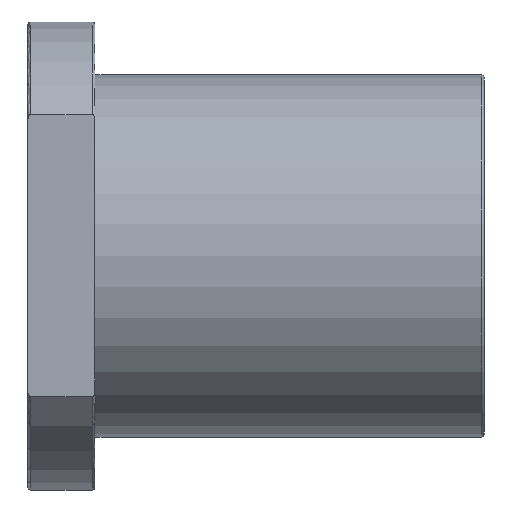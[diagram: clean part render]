
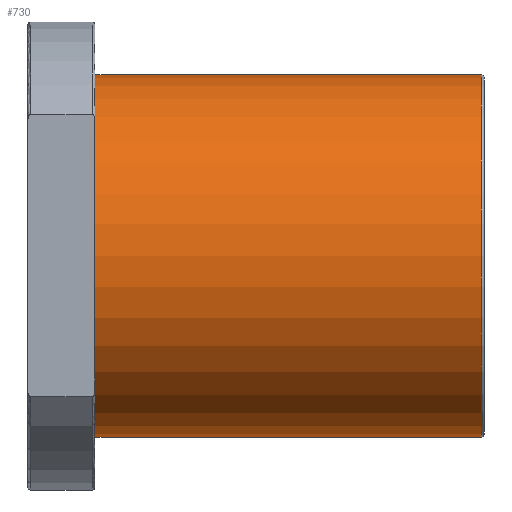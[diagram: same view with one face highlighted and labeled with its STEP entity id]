
A CAD part, top view. The second image highlights one B-rep face of the part: STEP entity #730.
In plain terms, the highlighted cylindrical face has radius 67.5 mm (diameter 135 mm), a partial arc.
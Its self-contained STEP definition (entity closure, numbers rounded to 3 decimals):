
#77=DIRECTION('',(-1.,0.,0.));
#78=VECTOR('',#77,144.);
#79=CARTESIAN_POINT('',(169.,67.5,0.));
#80=LINE('',#79,#78);
#81=DIRECTION('',(-1.,0.,0.));
#82=VECTOR('',#81,144.);
#83=CARTESIAN_POINT('',(169.,-67.5,0.));
#84=LINE('',#83,#82);
#85=CARTESIAN_POINT('',(169.,0.,0.));
#86=DIRECTION('',(-1.,0.,0.));
#87=DIRECTION('',(0.,-1.,0.));
#88=AXIS2_PLACEMENT_3D('',#85,#86,#87);
#100=CARTESIAN_POINT('',(25.,0.,0.));
#101=DIRECTION('',(1.,0.,0.));
#102=DIRECTION('',(0.,1.,0.));
#103=AXIS2_PLACEMENT_3D('',#100,#101,#102);
#523=CARTESIAN_POINT('',(25.,67.5,0.));
#524=CARTESIAN_POINT('',(25.,-67.5,0.));
#525=VERTEX_POINT('',#523);
#526=VERTEX_POINT('',#524);
#527=CARTESIAN_POINT('',(169.,67.5,0.));
#528=CARTESIAN_POINT('',(169.,-67.5,0.));
#529=VERTEX_POINT('',#527);
#530=VERTEX_POINT('',#528);
#717=CARTESIAN_POINT('',(-8.5,0.,0.));
#718=DIRECTION('',(1.,0.,0.));
#719=DIRECTION('',(0.,-1.,0.));
#720=AXIS2_PLACEMENT_3D('',#717,#718,#719);
#721=CYLINDRICAL_SURFACE('',#720,67.5);
#723=ORIENTED_EDGE('',*,*,#722,.F.);
#724=ORIENTED_EDGE('',*,*,#712,.T.);
#726=ORIENTED_EDGE('',*,*,#725,.F.);
#727=ORIENTED_EDGE('',*,*,#708,.F.);
#728=EDGE_LOOP('',(#723,#724,#726,#727));
#729=FACE_OUTER_BOUND('',#728,.F.);
#730=ADVANCED_FACE('',(#729),#721,.T.);
#89=CIRCLE('',#88,67.5);
#104=CIRCLE('',#103,67.5);
#708=EDGE_CURVE('',#529,#525,#80,.T.);
#712=EDGE_CURVE('',#530,#526,#84,.T.);
#722=EDGE_CURVE('',#530,#529,#89,.T.);
#725=EDGE_CURVE('',#525,#526,#104,.T.);
